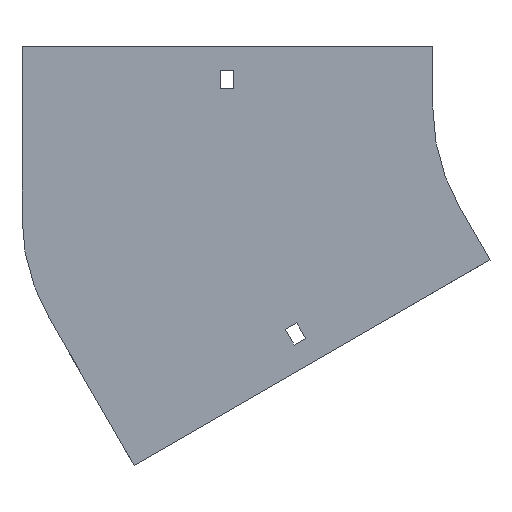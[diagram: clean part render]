
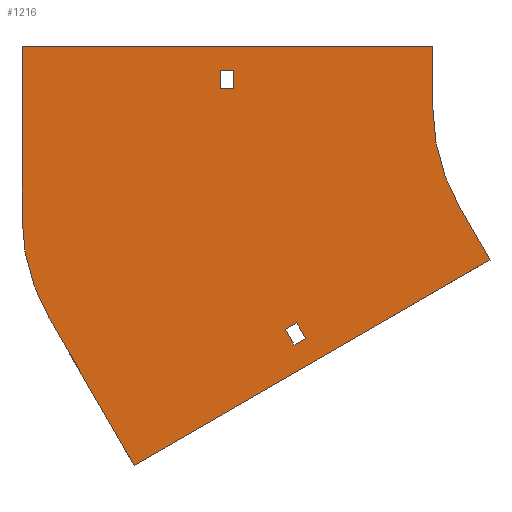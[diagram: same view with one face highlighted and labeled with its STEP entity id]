
A CAD part, front view. The second image highlights one B-rep face of the part: STEP entity #1216.
In plain terms, the highlighted planar face has unit normal (0, -1, 0).
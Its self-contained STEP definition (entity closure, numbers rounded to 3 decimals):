
#7 = VECTOR ( 'NONE', #1157, 1000. ) ;
#12 = VERTEX_POINT ( 'NONE', #1159 ) ;
#33 = LINE ( 'NONE', #362, #903 ) ;
#38 = CARTESIAN_POINT ( 'NONE',  ( -173.252, 0., -110.419 ) ) ;
#47 = LINE ( 'NONE', #1356, #146 ) ;
#53 = CARTESIAN_POINT ( 'NONE',  ( -86.603, 0., -50. ) ) ;
#55 = EDGE_CURVE ( 'NONE', #1054, #274, #294, .T. ) ;
#57 = DIRECTION ( 'NONE',  ( -0.5, 0., 0.866 ) ) ;
#74 = VERTEX_POINT ( 'NONE', #53 ) ;
#96 = EDGE_CURVE ( 'NONE', #496, #74, #351, .T. ) ;
#99 = ORIENTED_EDGE ( 'NONE', *, *, #137, .T. ) ;
#102 = DIRECTION ( 'NONE',  ( 0.5, 0., -0.866 ) ) ;
#107 = DIRECTION ( 'NONE',  ( -0.866, 0., -0.5 ) ) ;
#114 = CARTESIAN_POINT ( 'NONE',  ( -173.252, 0., -110.419 ) ) ;
#121 = EDGE_CURVE ( 'NONE', #975, #1030, #542, .T. ) ;
#131 = EDGE_CURVE ( 'NONE', #1176, #1160, #745, .T. ) ;
#137 = EDGE_CURVE ( 'NONE', #479, #1054, #327, .T. ) ;
#146 = VECTOR ( 'NONE', #692, 1000. ) ;
#154 = DIRECTION ( 'NONE',  ( 1., 0., 0. ) ) ;
#159 = ORIENTED_EDGE ( 'NONE', *, *, #1172, .F. ) ;
#162 = DIRECTION ( 'NONE',  ( 0., 0., -1. ) ) ;
#181 = CARTESIAN_POINT ( 'NONE',  ( -100., 0., 30. ) ) ;
#219 = VECTOR ( 'NONE', #689, 1000. ) ;
#229 = CARTESIAN_POINT ( 'NONE',  ( -205.25, 0., 9. ) ) ;
#240 = LINE ( 'NONE', #1097, #511 ) ;
#262 = LINE ( 'NONE', #477, #1250 ) ;
#264 = VERTEX_POINT ( 'NONE', #354 ) ;
#267 = LINE ( 'NONE', #1126, #733 ) ;
#268 = EDGE_CURVE ( 'NONE', #911, #479, #466, .T. ) ;
#274 = VERTEX_POINT ( 'NONE', #1213 ) ;
#276 = CARTESIAN_POINT ( 'NONE',  ( -167.623, 0., -107.169 ) ) ;
#285 = VECTOR ( 'NONE', #102, 1000. ) ;
#287 = FACE_BOUND ( 'NONE', #437, .T. ) ;
#294 = LINE ( 'NONE', #623, #854 ) ;
#299 = CARTESIAN_POINT ( 'NONE',  ( -86.603, 0., -50. ) ) ;
#314 = DIRECTION ( 'NONE',  ( 0., 0., -1. ) ) ;
#324 = CARTESIAN_POINT ( 'NONE',  ( -71.603, 0., -75.981 ) ) ;
#327 = LINE ( 'NONE', #229, #1167 ) ;
#331 = EDGE_CURVE ( 'NONE', #74, #12, #1352, .T. ) ;
#343 = ORIENTED_EDGE ( 'NONE', *, *, #1284, .F. ) ;
#351 = CIRCLE ( 'NONE', #666, 100. ) ;
#354 = CARTESIAN_POINT ( 'NONE',  ( -304., 0., -54.662 ) ) ;
#362 = CARTESIAN_POINT ( 'NONE',  ( -100., 0., 30. ) ) ;
#364 = VERTEX_POINT ( 'NONE', #181 ) ;
#397 = VERTEX_POINT ( 'NONE', #615 ) ;
#415 = CARTESIAN_POINT ( 'NONE',  ( -168.752, 0., -118.213 ) ) ;
#426 = VERTEX_POINT ( 'NONE', #1123 ) ;
#432 = DIRECTION ( 'NONE',  ( -0.866, 0., -0.5 ) ) ;
#437 = EDGE_LOOP ( 'NONE', ( #99, #1355, #1018, #1047 ) ) ;
#448 = EDGE_CURVE ( 'NONE', #1160, #1340, #794, .T. ) ;
#466 = LINE ( 'NONE', #1318, #219 ) ;
#477 = CARTESIAN_POINT ( 'NONE',  ( -167.623, 0., -107.169 ) ) ;
#479 = VERTEX_POINT ( 'NONE', #958 ) ;
#496 = VERTEX_POINT ( 'NONE', #853 ) ;
#511 = VECTOR ( 'NONE', #1088, 1000. ) ;
#518 = CARTESIAN_POINT ( 'NONE',  ( -198.75, 0., 9. ) ) ;
#524 = ORIENTED_EDGE ( 'NONE', *, *, #96, .F. ) ;
#533 = DIRECTION ( 'NONE',  ( 0., 0., 1. ) ) ;
#542 = LINE ( 'NONE', #951, #1301 ) ;
#548 = DIRECTION ( 'NONE',  ( 0., -1., 0. ) ) ;
#554 = VECTOR ( 'NONE', #154, 1000. ) ;
#590 = ORIENTED_EDGE ( 'NONE', *, *, #131, .F. ) ;
#591 = DIRECTION ( 'NONE',  ( 0., -1., 0. ) ) ;
#601 = ORIENTED_EDGE ( 'NONE', *, *, #1102, .F. ) ;
#615 = CARTESIAN_POINT ( 'NONE',  ( -304., 0., 30. ) ) ;
#620 = LINE ( 'NONE', #324, #1134 ) ;
#623 = CARTESIAN_POINT ( 'NONE',  ( -205.25, 0., 18. ) ) ;
#643 = AXIS2_PLACEMENT_3D ( 'NONE', #1031, #591, #1230 ) ;
#654 = CARTESIAN_POINT ( 'NONE',  ( 0., 0., 0. ) ) ;
#666 = AXIS2_PLACEMENT_3D ( 'NONE', #654, #548, #314 ) ;
#675 = ORIENTED_EDGE ( 'NONE', *, *, #891, .F. ) ;
#689 = DIRECTION ( 'NONE',  ( -1., 0., 0. ) ) ;
#692 = DIRECTION ( 'NONE',  ( 0., 0., 1. ) ) ;
#699 = FACE_OUTER_BOUND ( 'NONE', #1371, .T. ) ;
#702 = CARTESIAN_POINT ( 'NONE',  ( -173.252, 0., -110.419 ) ) ;
#733 = VECTOR ( 'NONE', #162, 1000. ) ;
#745 = LINE ( 'NONE', #114, #1165 ) ;
#765 = CARTESIAN_POINT ( 'NONE',  ( -290.603, 0., -104.662 ) ) ;
#770 = CARTESIAN_POINT ( 'NONE',  ( -205.25, 0., 18. ) ) ;
#773 = CIRCLE ( 'NONE', #845, 100. ) ;
#786 = DIRECTION ( 'NONE',  ( 0., 0., -1. ) ) ;
#791 = FACE_BOUND ( 'NONE', #1380, .T. ) ;
#794 = LINE ( 'NONE', #702, #285 ) ;
#845 = AXIS2_PLACEMENT_3D ( 'NONE', #882, #870, #1001 ) ;
#853 = CARTESIAN_POINT ( 'NONE',  ( -100., 0., 0. ) ) ;
#854 = VECTOR ( 'NONE', #946, 1000. ) ;
#870 = DIRECTION ( 'NONE',  ( 0., 1., 0. ) ) ;
#872 = DIRECTION ( 'NONE',  ( -0.5, 0., 0.866 ) ) ;
#882 = CARTESIAN_POINT ( 'NONE',  ( -204., 0., -54.662 ) ) ;
#891 = EDGE_CURVE ( 'NONE', #12, #975, #620, .T. ) ;
#903 = VECTOR ( 'NONE', #786, 1000. ) ;
#904 = CARTESIAN_POINT ( 'NONE',  ( -304., 0., 30. ) ) ;
#911 = VERTEX_POINT ( 'NONE', #518 ) ;
#920 = ORIENTED_EDGE ( 'NONE', *, *, #1181, .F. ) ;
#937 = ORIENTED_EDGE ( 'NONE', *, *, #1227, .F. ) ;
#946 = DIRECTION ( 'NONE',  ( 1., 0., 0. ) ) ;
#951 = CARTESIAN_POINT ( 'NONE',  ( -248.272, 0., -177.981 ) ) ;
#953 = ORIENTED_EDGE ( 'NONE', *, *, #1096, .F. ) ;
#958 = CARTESIAN_POINT ( 'NONE',  ( -205.25, 0., 9. ) ) ;
#975 = VERTEX_POINT ( 'NONE', #1399 ) ;
#1001 = DIRECTION ( 'NONE',  ( 0., 0., 1. ) ) ;
#1018 = ORIENTED_EDGE ( 'NONE', *, *, #1288, .T. ) ;
#1030 = VERTEX_POINT ( 'NONE', #765 ) ;
#1031 = CARTESIAN_POINT ( 'NONE',  ( 0., 0., 0. ) ) ;
#1047 = ORIENTED_EDGE ( 'NONE', *, *, #268, .T. ) ;
#1054 = VERTEX_POINT ( 'NONE', #770 ) ;
#1088 = DIRECTION ( 'NONE',  ( 0.866, 0., 0.5 ) ) ;
#1096 = EDGE_CURVE ( 'NONE', #1340, #426, #240, .T. ) ;
#1097 = CARTESIAN_POINT ( 'NONE',  ( -168.752, 0., -118.213 ) ) ;
#1102 = EDGE_CURVE ( 'NONE', #1030, #264, #773, .T. ) ;
#1123 = CARTESIAN_POINT ( 'NONE',  ( -163.123, 0., -114.963 ) ) ;
#1126 = CARTESIAN_POINT ( 'NONE',  ( -198.75, 0., 9. ) ) ;
#1134 = VECTOR ( 'NONE', #107, 1000. ) ;
#1157 = DIRECTION ( 'NONE',  ( 0.5, 0., -0.866 ) ) ;
#1159 = CARTESIAN_POINT ( 'NONE',  ( -71.603, 0., -75.981 ) ) ;
#1160 = VERTEX_POINT ( 'NONE', #38 ) ;
#1165 = VECTOR ( 'NONE', #432, 1000. ) ;
#1167 = VECTOR ( 'NONE', #533, 1000. ) ;
#1172 = EDGE_CURVE ( 'NONE', #426, #1176, #262, .T. ) ;
#1175 = ORIENTED_EDGE ( 'NONE', *, *, #331, .F. ) ;
#1176 = VERTEX_POINT ( 'NONE', #276 ) ;
#1181 = EDGE_CURVE ( 'NONE', #364, #496, #33, .T. ) ;
#1213 = CARTESIAN_POINT ( 'NONE',  ( -198.75, 0., 18. ) ) ;
#1216 = ADVANCED_FACE ( 'NONE', ( #287, #699, #791 ), #1252, .T. ) ;
#1224 = ORIENTED_EDGE ( 'NONE', *, *, #448, .F. ) ;
#1227 = EDGE_CURVE ( 'NONE', #264, #397, #47, .T. ) ;
#1230 = DIRECTION ( 'NONE',  ( 0., 0., -1. ) ) ;
#1236 = LINE ( 'NONE', #904, #554 ) ;
#1250 = VECTOR ( 'NONE', #57, 1000. ) ;
#1252 = PLANE ( 'NONE',  #643 ) ;
#1284 = EDGE_CURVE ( 'NONE', #397, #364, #1236, .T. ) ;
#1288 = EDGE_CURVE ( 'NONE', #274, #911, #267, .T. ) ;
#1301 = VECTOR ( 'NONE', #872, 1000. ) ;
#1318 = CARTESIAN_POINT ( 'NONE',  ( -205.25, 0., 9. ) ) ;
#1334 = ORIENTED_EDGE ( 'NONE', *, *, #121, .F. ) ;
#1340 = VERTEX_POINT ( 'NONE', #415 ) ;
#1352 = LINE ( 'NONE', #299, #7 ) ;
#1355 = ORIENTED_EDGE ( 'NONE', *, *, #55, .T. ) ;
#1356 = CARTESIAN_POINT ( 'NONE',  ( -304., 0., -54.662 ) ) ;
#1371 = EDGE_LOOP ( 'NONE', ( #343, #937, #601, #1334, #675, #1175, #524, #920 ) ) ;
#1380 = EDGE_LOOP ( 'NONE', ( #953, #1224, #590, #159 ) ) ;
#1399 = CARTESIAN_POINT ( 'NONE',  ( -248.272, 0., -177.981 ) ) ;
